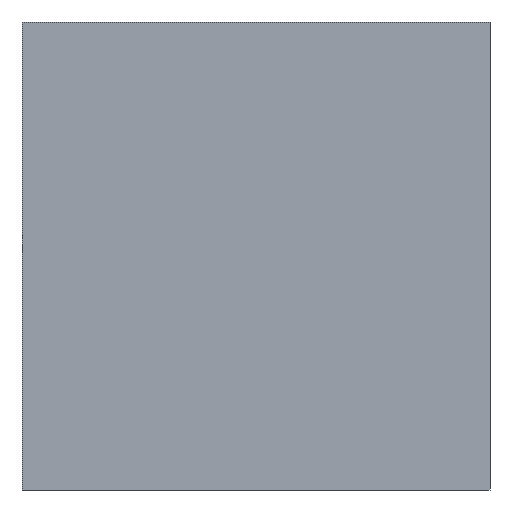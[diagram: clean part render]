
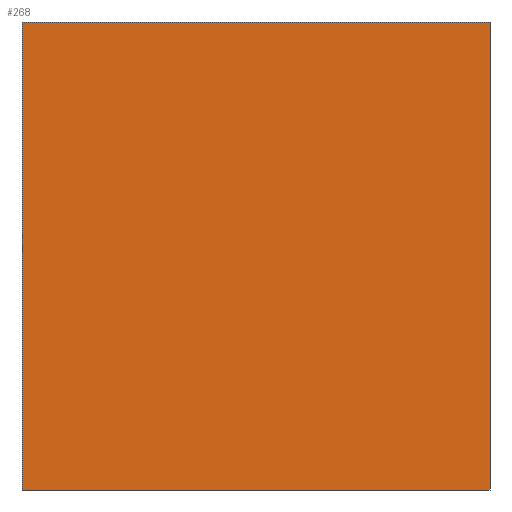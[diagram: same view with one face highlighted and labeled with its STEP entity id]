
A CAD part, front view. The second image highlights one B-rep face of the part: STEP entity #268.
In plain terms, the highlighted planar face has unit normal (0, -1, 0).
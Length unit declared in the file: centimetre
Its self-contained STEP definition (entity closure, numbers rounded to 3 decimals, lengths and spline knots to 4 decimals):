
#3 = VERTEX_POINT ( 'NONE', #91 ) ;
#4 = DIRECTION ( 'NONE',  ( 0., 1., 0. ) ) ;
#50 = VECTOR ( 'NONE', #479, 100. ) ;
#61 = CARTESIAN_POINT ( 'NONE',  ( 1000., 0., 1000. ) ) ;
#73 = EDGE_CURVE ( 'NONE', #3, #470, #482, .T. ) ;
#89 = VECTOR ( 'NONE', #300, 100. ) ;
#91 = CARTESIAN_POINT ( 'NONE',  ( 1000., 0., 1000. ) ) ;
#96 = ORIENTED_EDGE ( 'NONE', *, *, #100, .T. ) ;
#100 = EDGE_CURVE ( 'NONE', #391, #138, #101, .T. ) ;
#101 = LINE ( 'NONE', #249, #50 ) ;
#116 = DIRECTION ( 'NONE',  ( 0., 0., 1. ) ) ;
#138 = VERTEX_POINT ( 'NONE', #183 ) ;
#150 = PLANE ( 'NONE',  #215 ) ;
#158 = DIRECTION ( 'NONE',  ( 1., 0., 0. ) ) ;
#171 = EDGE_LOOP ( 'NONE', ( #492, #351, #450, #96 ) ) ;
#183 = CARTESIAN_POINT ( 'NONE',  ( 0., 0., 0. ) ) ;
#189 = FACE_OUTER_BOUND ( 'NONE', #171, .T. ) ;
#200 = EDGE_CURVE ( 'NONE', #391, #3, #302, .T. ) ;
#215 = AXIS2_PLACEMENT_3D ( 'NONE', #232, #4, #116 ) ;
#232 = CARTESIAN_POINT ( 'NONE',  ( 0., 0., 1000. ) ) ;
#249 = CARTESIAN_POINT ( 'NONE',  ( 0., 0., 1000. ) ) ;
#262 = VECTOR ( 'NONE', #158, 100. ) ;
#265 = VECTOR ( 'NONE', #323, 100. ) ;
#268 = ADVANCED_FACE ( 'NONE', ( #189 ), #150, .F. ) ;
#294 = CARTESIAN_POINT ( 'NONE',  ( 1000., 0., 0. ) ) ;
#300 = DIRECTION ( 'NONE',  ( 1., 0., 0. ) ) ;
#301 = EDGE_CURVE ( 'NONE', #138, #470, #348, .T. ) ;
#302 = LINE ( 'NONE', #423, #89 ) ;
#316 = CARTESIAN_POINT ( 'NONE',  ( 0., 0., 0. ) ) ;
#323 = DIRECTION ( 'NONE',  ( 0., 0., -1. ) ) ;
#348 = LINE ( 'NONE', #316, #262 ) ;
#351 = ORIENTED_EDGE ( 'NONE', *, *, #73, .F. ) ;
#391 = VERTEX_POINT ( 'NONE', #469 ) ;
#423 = CARTESIAN_POINT ( 'NONE',  ( 0., 0., 1000. ) ) ;
#450 = ORIENTED_EDGE ( 'NONE', *, *, #200, .F. ) ;
#469 = CARTESIAN_POINT ( 'NONE',  ( 0., 0., 1000. ) ) ;
#470 = VERTEX_POINT ( 'NONE', #294 ) ;
#479 = DIRECTION ( 'NONE',  ( 0., 0., -1. ) ) ;
#482 = LINE ( 'NONE', #61, #265 ) ;
#492 = ORIENTED_EDGE ( 'NONE', *, *, #301, .T. ) ;
